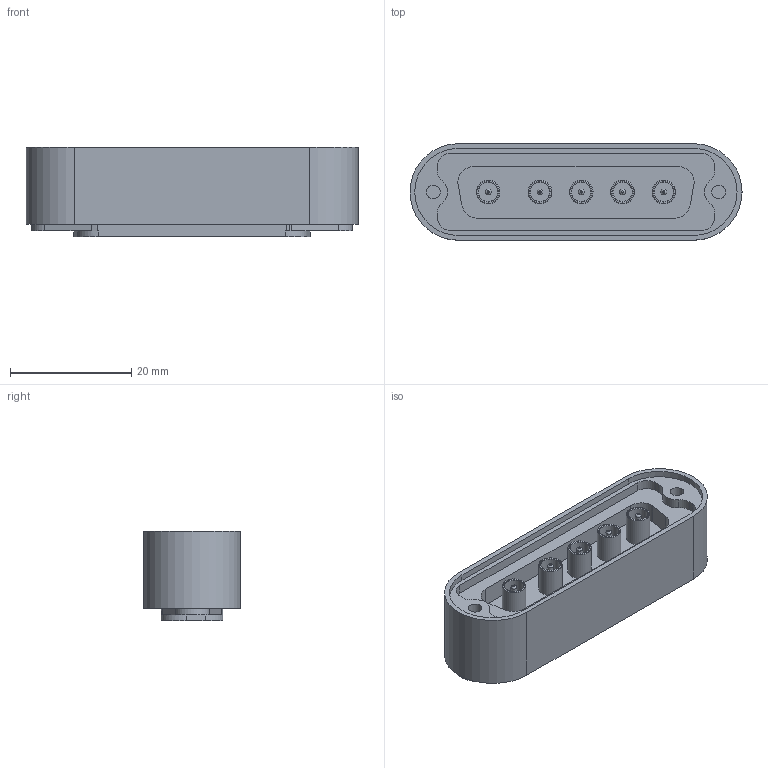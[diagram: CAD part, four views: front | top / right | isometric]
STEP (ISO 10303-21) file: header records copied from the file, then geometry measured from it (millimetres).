
FILE_DESCRIPTION(/* description */ ('Alibre Inc.'),/* implementation_level */ '2;1');
FILE_NAME(/* name */ 'export0',/* time_stamp */ '2014-12-02T10:54:33-08:00',/* author */ (''),/* organization */ (''),/* preprocessor_version */ 'ST-DEVELOPER v14',/* originating_system */ 'Alibre',/* authorisation */ '');
FILE_SCHEMA (('CONFIG_CONTROL_DESIGN'));
Length unit declared in the file: centimetre
Products named in the file (1): WRM S10018
Bounding box: 54.74 x 15.93 x 14.71 mm (x, y, z)
Volume: 6896.6 mm3; surface area: 5976.7 mm2
Topology: 1 solids, 1 shells, 970 faces, 2579 edges, 1710 vertices
Faces by surface type: bspline 483, plane 392, cylinder 65, cone 20, torus 10
Full cylindrical faces by diameter (mm): 0.965 x10, 2.261 x4, 3.175 x10, 3.886 x10
Entity records: 29809 total; most frequent: CARTESIAN_POINT 9511, ORIENTED_EDGE 5026, EDGE_CURVE 2513, DIRECTION 2259, VERTEX_POINT 1708, VECTOR 1379, LINE 1379, EDGE_LOOP 1133
